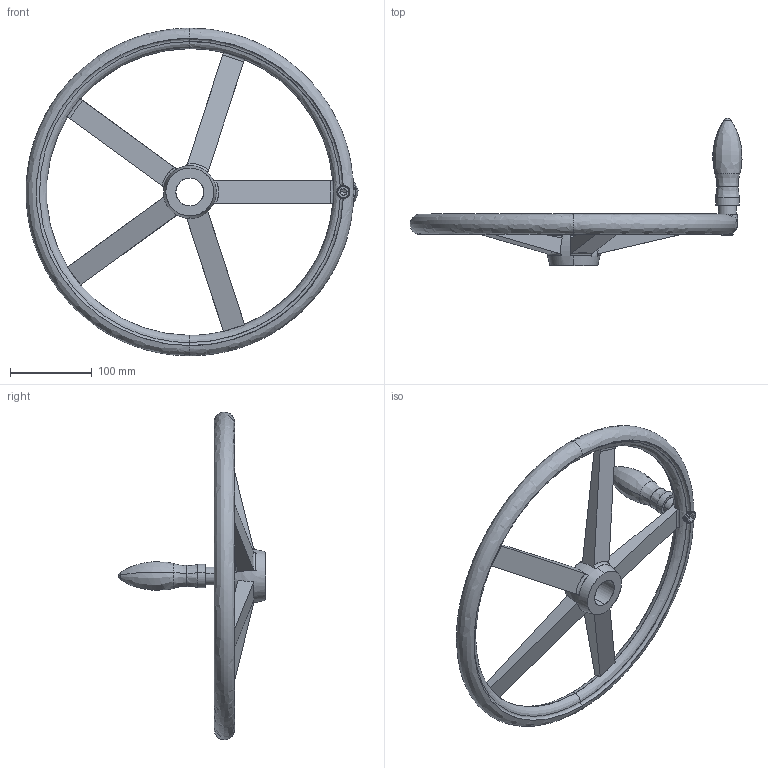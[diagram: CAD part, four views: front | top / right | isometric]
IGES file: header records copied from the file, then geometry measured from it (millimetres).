
Start section: SolidWorks IGES file using analytic representation for surfaces
Global section: file name: C:\Users\IanO\Desktop\Temp File\Process pending\77120_v2\77120_v2_20171108_IGES\77120.W0251.igs; native system: SolidWorks 2017; preprocessor: SolidWorks 2017; author: IanO; date: 171108.084442; units: millimetre
Bounding box: 405.3 x 180 x 400 mm (x, y, z)
Surface area: 188410.4 mm2 (no closed solid volume)
Topology: 0 solids, 0 shells, 156 faces, 2266 edges, 2257 vertices
Faces by surface type: bspline 82, revolution 74
